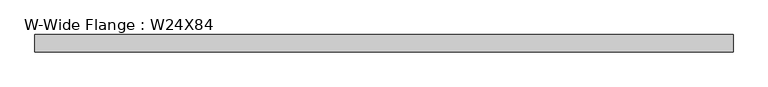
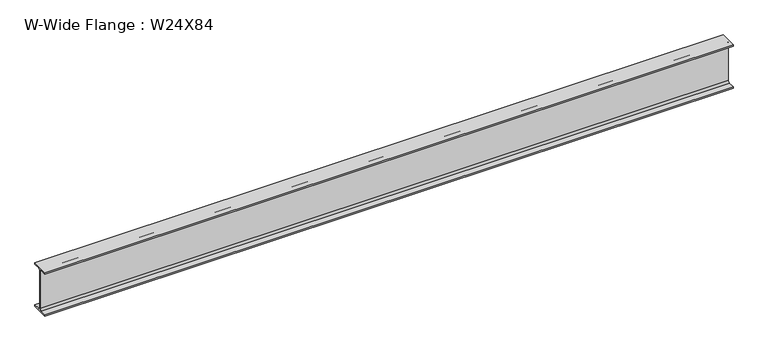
"""IFC4 building model written with IfcOpenShell, lengths in millimetres: beam geometry, W-Wide Flange : W24X84."""

from ifc_helpers import new_model, si_unit, point, frame, frame_2d, origin, place, context, project, spatial, polyline, circle_curve, trimmed, segment, composite_curve, outline, extrude, source, transform, mapped, element, save


def w_wide_flange_w24x84_bdb729cd(model_context):
    return source(origin(), model_context, "Body", "SweptSolid", [
        extrude(outline(composite_curve([segment(polyline([(114.554, -286.512), (114.554, -306.07), (-114.554, -306.07), (-114.554, -286.512), (-29.2735, -286.512)]), True, "CONTINUOUS"), segment(trimmed(circle_curve(frame_2d((-29.2735, -263.2075)), 23.3045), [point((-29.2735, -286.512))], [point((-5.969, -263.2075))], True, "CARTESIAN"), True, "CONTINUOUS"), segment(polyline([(-5.969, -263.2075), (-5.969, 263.2075)]), True, "CONTINUOUS"), segment(trimmed(circle_curve(frame_2d((-29.2735, 263.2075)), 23.3045), [point((-5.969, 263.2075))], [point((-29.2735, 286.512))], True, "CARTESIAN"), True, "CONTINUOUS"), segment(polyline([(-29.2735, 286.512), (-114.554, 286.512), (-114.554, 306.07), (114.554, 306.07), (114.554, 286.512), (29.2735, 286.512)]), True, "CONTINUOUS"), segment(trimmed(circle_curve(frame_2d((29.2735, 263.2075)), 23.3045), [point((29.2735, 286.512))], [point((5.969, 263.2075))], True, "CARTESIAN"), True, "CONTINUOUS"), segment(polyline([(5.969, 263.2075), (5.969, -263.2075)]), True, "CONTINUOUS"), segment(trimmed(circle_curve(frame_2d((29.2735, -263.2075)), 23.3045), [point((5.969, -263.2075))], [point((29.2735, -286.512))], True, "CARTESIAN"), True, "CONTINUOUS"), segment(polyline([(29.2735, -286.512), (114.554, -286.512)]), True, "CONTINUOUS")], self_intersect=False)), frame((-4501.3066406, 0.0, 0.0), z_axis=(1.0, 0.0, 0.0), x_axis=(0.0, 1.0, 0.0)), (0.0, 0.0, 1.0), 9186.7632812),
    ])


if __name__ == "__main__":
    model = new_model("IFC4")
    model_context = context("Model", 3, world=origin())
    ifc_project = project(units=[si_unit("LENGTHUNIT", "METRE", prefix="MILLI")], contexts=[model_context])
    site = spatial("IfcSite", under=ifc_project)
    building = spatial("IfcBuilding", under=site)
    placement = place(None, origin())
    w_wide_flange_w24x84_shape = w_wide_flange_w24x84_bdb729cd(model_context)
    element("IfcBeam", 1, ObjectType="W-Wide Flange : W24X84", at=placement, inside=building, context=model_context, shape_type="MappedRepresentation", body=[
        mapped(w_wide_flange_w24x84_shape, transform((0.0, 0.0, 0.0), x_axis=(1.0, 0.0, 0.0), y_axis=(0.0, 1.0, 0.0), z_axis=(0.0, 0.0, 1.0))),
    ])
    save(model, "model.ifc")
